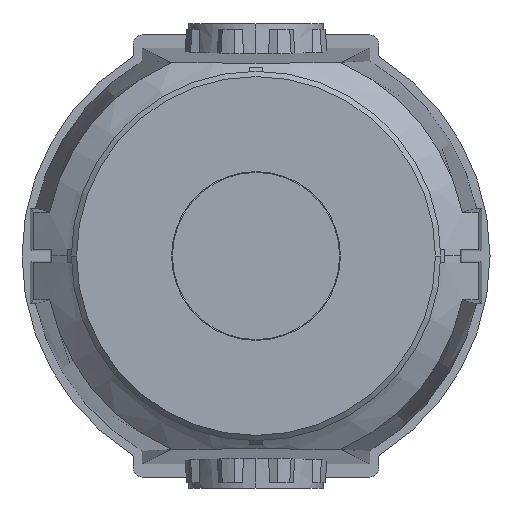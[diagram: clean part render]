
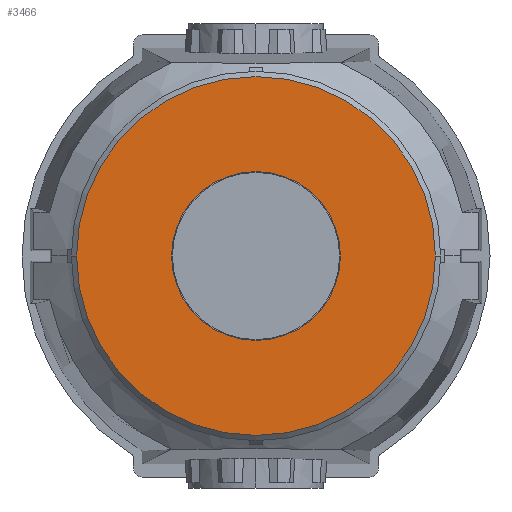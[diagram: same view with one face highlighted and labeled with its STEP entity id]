
A CAD part, front view. The second image highlights one B-rep face of the part: STEP entity #3466.
In plain terms, the highlighted planar face has unit normal (0, -1, 0) as drawn and (0, 0, 1) by its records, which use the part's own axes.
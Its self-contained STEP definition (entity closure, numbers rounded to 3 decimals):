
#3271=CARTESIAN_POINT('',(0.,0.,2.5));
#3272=DIRECTION('',(0.,0.,1.));
#3273=DIRECTION('',(1.,0.,0.));
#3274=AXIS2_PLACEMENT_3D('',#3271,#3272,#3273);
#3276=CARTESIAN_POINT('',(0.,0.,2.5));
#3277=DIRECTION('',(0.,0.,1.));
#3278=DIRECTION('',(-1.,0.,0.));
#3279=AXIS2_PLACEMENT_3D('',#3276,#3277,#3278);
#3281=CARTESIAN_POINT('',(0.,0.,2.5));
#3282=DIRECTION('',(0.,0.,1.));
#3283=DIRECTION('',(0.,-1.,0.));
#3284=AXIS2_PLACEMENT_3D('',#3281,#3282,#3283);
#3286=CARTESIAN_POINT('',(0.,0.,2.5));
#3287=DIRECTION('',(0.,0.,1.));
#3288=DIRECTION('',(0.,1.,0.));
#3289=AXIS2_PLACEMENT_3D('',#3286,#3287,#3288);
#3352=CARTESIAN_POINT('',(34.,0.,2.5));
#3353=CARTESIAN_POINT('',(-34.,0.,2.5));
#3354=VERTEX_POINT('',#3352);
#3355=VERTEX_POINT('',#3353);
#3380=CARTESIAN_POINT('',(0.,-16.,2.5));
#3381=CARTESIAN_POINT('',(0.,16.,2.5));
#3382=VERTEX_POINT('',#3380);
#3383=VERTEX_POINT('',#3381);
#3450=CARTESIAN_POINT('',(0.,0.,2.5));
#3451=DIRECTION('',(0.,0.,1.));
#3452=DIRECTION('',(1.,0.,0.));
#3453=AXIS2_PLACEMENT_3D('',#3450,#3451,#3452);
#3454=PLANE('',#3453);
#3455=ORIENTED_EDGE('',*,*,#3440,.F.);
#3457=ORIENTED_EDGE('',*,*,#3456,.F.);
#3458=EDGE_LOOP('',(#3455,#3457));
#3459=FACE_OUTER_BOUND('',#3458,.F.);
#3461=ORIENTED_EDGE('',*,*,#3460,.T.);
#3463=ORIENTED_EDGE('',*,*,#3462,.T.);
#3464=EDGE_LOOP('',(#3461,#3463));
#3465=FACE_BOUND('',#3464,.F.);
#3466=ADVANCED_FACE('',(#3459,#3465),#3454,.T.);
#3275=CIRCLE('',#3274,34.);
#3280=CIRCLE('',#3279,34.);
#3285=CIRCLE('',#3284,16.);
#3290=CIRCLE('',#3289,16.);
#3440=EDGE_CURVE('',#3354,#3355,#3275,.T.);
#3456=EDGE_CURVE('',#3355,#3354,#3280,.T.);
#3460=EDGE_CURVE('',#3382,#3383,#3285,.T.);
#3462=EDGE_CURVE('',#3383,#3382,#3290,.T.);
